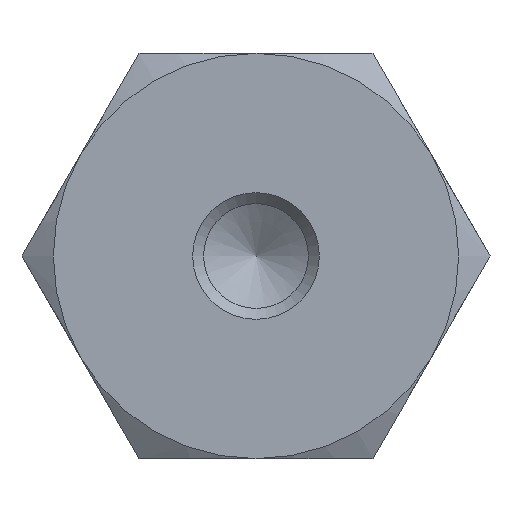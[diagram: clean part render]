
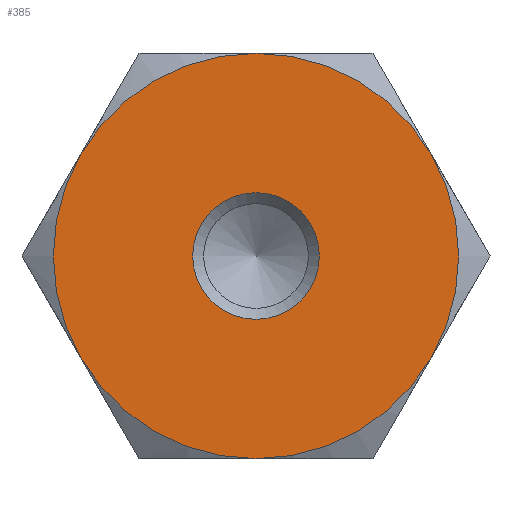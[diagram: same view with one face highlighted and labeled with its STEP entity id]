
A CAD part, front view. The second image highlights one B-rep face of the part: STEP entity #385.
In plain terms, the highlighted planar face has unit normal (0, -1, 0).
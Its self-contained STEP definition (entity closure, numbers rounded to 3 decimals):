
#164=ORIENTED_EDGE('',*,*,#224,.F.);
#165=ORIENTED_EDGE('',*,*,#219,.T.);
#166=ORIENTED_EDGE('',*,*,#223,.T.);
#167=ORIENTED_EDGE('',*,*,#222,.T.);
#168=ORIENTED_EDGE('',*,*,#221,.T.);
#169=ORIENTED_EDGE('',*,*,#225,.T.);
#170=ORIENTED_EDGE('',*,*,#220,.T.);
#219=EDGE_CURVE('',#248,#250,#270,.T.);
#220=EDGE_CURVE('',#245,#248,#271,.T.);
#221=EDGE_CURVE('',#254,#255,#272,.T.);
#222=EDGE_CURVE('',#252,#254,#273,.T.);
#223=EDGE_CURVE('',#250,#252,#274,.T.);
#224=EDGE_CURVE('',#256,#256,#275,.T.);
#225=EDGE_CURVE('',#255,#245,#276,.T.);
#245=VERTEX_POINT('',#618);
#248=VERTEX_POINT('',#632);
#250=VERTEX_POINT('',#644);
#252=VERTEX_POINT('',#656);
#254=VERTEX_POINT('',#668);
#255=VERTEX_POINT('',#678);
#256=VERTEX_POINT('',#695);
#270=CIRCLE('',#431,8.);
#271=CIRCLE('',#433,8.);
#272=CIRCLE('',#435,8.);
#273=CIRCLE('',#437,8.);
#274=CIRCLE('',#439,8.);
#275=CIRCLE('',#441,2.5);
#276=CIRCLE('',#442,8.);
#305=EDGE_LOOP('',(#164));
#306=EDGE_LOOP('',(#165,#166,#167,#168,#169,#170));
#339=FACE_BOUND('',#305,.T.);
#340=FACE_BOUND('',#306,.T.);
#362=PLANE('',#440);
#385=ADVANCED_FACE('',(#339,#340),#362,.F.);
#431=AXIS2_PLACEMENT_3D('',#684,#525,#526);
#433=AXIS2_PLACEMENT_3D('',#686,#529,#530);
#435=AXIS2_PLACEMENT_3D('',#688,#533,#534);
#437=AXIS2_PLACEMENT_3D('',#690,#537,#538);
#439=AXIS2_PLACEMENT_3D('',#692,#541,#542);
#440=AXIS2_PLACEMENT_3D('',#693,#543,#544);
#441=AXIS2_PLACEMENT_3D('',#694,#545,#546);
#442=AXIS2_PLACEMENT_3D('',#696,#547,#548);
#525=DIRECTION('',(0.,-1.,0.));
#526=DIRECTION('',(0.,0.,-1.));
#529=DIRECTION('',(0.,-1.,0.));
#530=DIRECTION('',(0.,0.,-1.));
#533=DIRECTION('',(0.,-1.,0.));
#534=DIRECTION('',(0.,0.,-1.));
#537=DIRECTION('',(0.,-1.,0.));
#538=DIRECTION('',(0.,0.,-1.));
#541=DIRECTION('',(0.,-1.,0.));
#542=DIRECTION('',(0.,0.,-1.));
#543=DIRECTION('',(0.,1.,0.));
#544=DIRECTION('',(0.,0.,1.));
#545=DIRECTION('',(0.,-1.,0.));
#546=DIRECTION('',(1.,0.,0.));
#547=DIRECTION('',(0.,-1.,0.));
#548=DIRECTION('',(0.,0.,-1.));
#618=CARTESIAN_POINT('',(-6.928,0.,-4.));
#632=CARTESIAN_POINT('',(0.,0.,-8.));
#644=CARTESIAN_POINT('',(6.928,0.,-4.));
#656=CARTESIAN_POINT('',(6.928,0.,4.));
#668=CARTESIAN_POINT('',(0.,0.,8.));
#678=CARTESIAN_POINT('',(-6.928,0.,4.));
#684=CARTESIAN_POINT('',(0.,0.,0.));
#686=CARTESIAN_POINT('',(0.,0.,0.));
#688=CARTESIAN_POINT('',(0.,0.,0.));
#690=CARTESIAN_POINT('',(0.,0.,0.));
#692=CARTESIAN_POINT('',(0.,0.,0.));
#693=CARTESIAN_POINT('',(8.,0.,0.));
#694=CARTESIAN_POINT('',(0.,0.,0.));
#695=CARTESIAN_POINT('',(2.5,0.,0.));
#696=CARTESIAN_POINT('',(0.,0.,0.));
